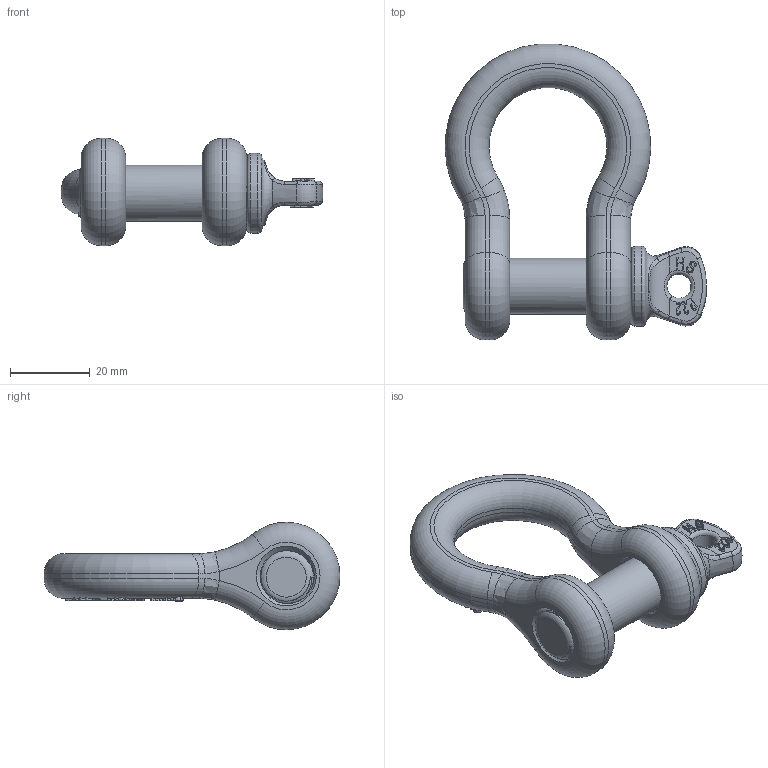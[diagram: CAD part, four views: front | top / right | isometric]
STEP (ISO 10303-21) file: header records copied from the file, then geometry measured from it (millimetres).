
FILE_DESCRIPTION(/* description */ (''),/* implementation_level */ '2;1');
FILE_NAME(/* name */ 'G-209A-7-16.stp',/* time_stamp */ '2025-04-08T08:27:52+08:00',/* author */ (''),/* organization */ (''),/* preprocessor_version */ 'ST-DEVELOPER v16',/* originating_system */ 'SIEMENS PLM Software NX 10.0',/* authorisation */ '');
FILE_SCHEMA (('AP203_CONFIGURATION_CONTROLLED_3D_DESIGN_OF_MECHANICAL_PARTS_AND_ASSEMBLIES_MIM_LF { 1 0 10303 403 2 1 2}'));
Length unit declared in the file: millimetre
Products named in the file (1): Admi20FC52B4dhth
Bounding box: 65.54 x 74.11 x 26.9 mm (x, y, z)
Volume: 28296.8 mm3; surface area: 11388.6 mm2
Topology: 2 solids, 2 shells, 547 faces, 1526 edges, 997 vertices
Faces by surface type: plane 241, extrusion 161, cylinder 59, torus 45, bspline 32, cone 8, sphere 1
Full cylindrical faces by diameter (mm): 6 x1, 14 x4, 15 x1, 20 x1
Entity records: 22144 total; most frequent: CARTESIAN_POINT 9673, ORIENTED_EDGE 2964, DIRECTION 1851, EDGE_CURVE 1482, VERTEX_POINT 974, B_SPLINE_CURVE_WITH_KNOTS 900, VECTOR 655, AXIS2_PLACEMENT_3D 598
